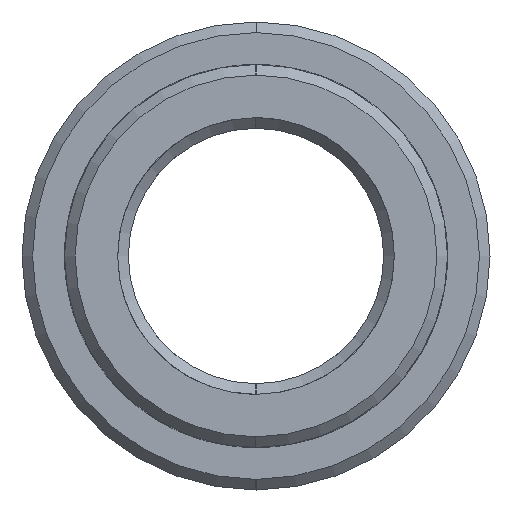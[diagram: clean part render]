
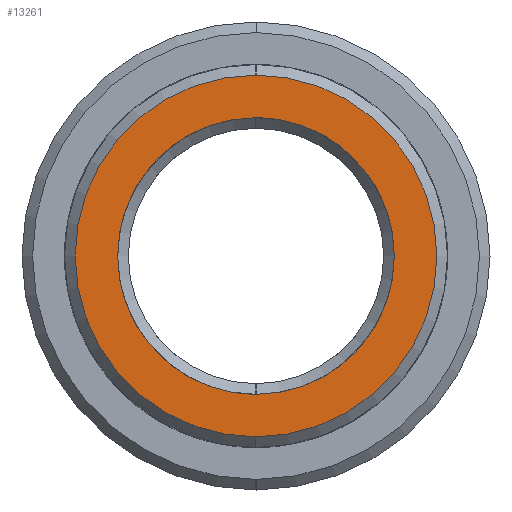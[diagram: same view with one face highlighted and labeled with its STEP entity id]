
A CAD part, left-side view. The second image highlights one B-rep face of the part: STEP entity #13261.
In plain terms, the highlighted planar face has unit normal (1, 0, 0).
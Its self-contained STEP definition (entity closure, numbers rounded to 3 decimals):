
#13178=CARTESIAN_POINT('Axis2P3D Location',(-16.,0.,0.)) ;
#13183=CARTESIAN_POINT('Axis2P3D Location',(-16.,0.,0.)) ;
#13187=CARTESIAN_POINT('Vertex',(-16.,0.,8.5)) ;
#13189=CARTESIAN_POINT('Vertex',(-16.,0.,-8.5)) ;
#13192=CARTESIAN_POINT('Axis2P3D Location',(-16.,0.,0.)) ;
#13202=CARTESIAN_POINT('Control Point',(-16.,0.,6.5)) ;
#13203=CARTESIAN_POINT('Control Point',(-16.,0.624,6.5)) ;
#13204=CARTESIAN_POINT('Control Point',(-16.,1.249,6.425)) ;
#13205=CARTESIAN_POINT('Control Point',(-16.,1.861,6.275)) ;
#13206=CARTESIAN_POINT('Control Point',(-16.,3.038,5.831)) ;
#13207=CARTESIAN_POINT('Control Point',(-16.,4.077,5.121)) ;
#13208=CARTESIAN_POINT('Control Point',(-16.,4.551,4.705)) ;
#13209=CARTESIAN_POINT('Control Point',(-16.,5.389,3.767)) ;
#13210=CARTESIAN_POINT('Control Point',(-16.,5.982,2.657)) ;
#13211=CARTESIAN_POINT('Control Point',(-16.,6.21,2.069)) ;
#13212=CARTESIAN_POINT('Control Point',(-16.,6.52,0.85)) ;
#13213=CARTESIAN_POINT('Control Point',(-16.,6.533,-0.408)) ;
#13214=CARTESIAN_POINT('Control Point',(-16.,6.463,-1.035)) ;
#13215=CARTESIAN_POINT('Control Point',(-16.,6.175,-2.259)) ;
#13216=CARTESIAN_POINT('Control Point',(-16.,5.605,-3.381)) ;
#13217=CARTESIAN_POINT('Control Point',(-16.,5.253,-3.904)) ;
#13218=CARTESIAN_POINT('Control Point',(-16.,4.432,-4.857)) ;
#13219=CARTESIAN_POINT('Control Point',(-16.,3.408,-5.588)) ;
#13220=CARTESIAN_POINT('Control Point',(-16.,2.855,-5.89)) ;
#13221=CARTESIAN_POINT('Control Point',(-16.,1.955,-6.248)) ;
#13222=CARTESIAN_POINT('Control Point',(-16.,1.009,-6.434)) ;
#13223=CARTESIAN_POINT('Control Point',(-16.,0.674,-6.478)) ;
#13224=CARTESIAN_POINT('Control Point',(-16.,0.337,-6.5)) ;
#13225=CARTESIAN_POINT('Control Point',(-16.,0.,-6.5)) ;
#13226=CARTESIAN_POINT('Vertex',(-16.,0.,6.5)) ;
#13228=CARTESIAN_POINT('Vertex',(-16.,0.,-6.5)) ;
#13232=CARTESIAN_POINT('Control Point',(-16.,0.,-6.5)) ;
#13233=CARTESIAN_POINT('Control Point',(-16.,-0.624,-6.5)) ;
#13234=CARTESIAN_POINT('Control Point',(-16.,-1.249,-6.425)) ;
#13235=CARTESIAN_POINT('Control Point',(-16.,-1.861,-6.275)) ;
#13236=CARTESIAN_POINT('Control Point',(-16.,-3.038,-5.831)) ;
#13237=CARTESIAN_POINT('Control Point',(-16.,-4.077,-5.121)) ;
#13238=CARTESIAN_POINT('Control Point',(-16.,-4.551,-4.705)) ;
#13239=CARTESIAN_POINT('Control Point',(-16.,-5.389,-3.767)) ;
#13240=CARTESIAN_POINT('Control Point',(-16.,-5.982,-2.657)) ;
#13241=CARTESIAN_POINT('Control Point',(-16.,-6.21,-2.069)) ;
#13242=CARTESIAN_POINT('Control Point',(-16.,-6.52,-0.85)) ;
#13243=CARTESIAN_POINT('Control Point',(-16.,-6.533,0.408)) ;
#13244=CARTESIAN_POINT('Control Point',(-16.,-6.463,1.035)) ;
#13245=CARTESIAN_POINT('Control Point',(-16.,-6.175,2.259)) ;
#13246=CARTESIAN_POINT('Control Point',(-16.,-5.605,3.381)) ;
#13247=CARTESIAN_POINT('Control Point',(-16.,-5.253,3.904)) ;
#13248=CARTESIAN_POINT('Control Point',(-16.,-4.432,4.857)) ;
#13249=CARTESIAN_POINT('Control Point',(-16.,-3.408,5.588)) ;
#13250=CARTESIAN_POINT('Control Point',(-16.,-2.855,5.89)) ;
#13251=CARTESIAN_POINT('Control Point',(-16.,-1.955,6.248)) ;
#13252=CARTESIAN_POINT('Control Point',(-16.,-1.009,6.434)) ;
#13253=CARTESIAN_POINT('Control Point',(-16.,-0.674,6.478)) ;
#13254=CARTESIAN_POINT('Control Point',(-16.,-0.337,6.5)) ;
#13255=CARTESIAN_POINT('Control Point',(-16.,0.,6.5)) ;
#13179=DIRECTION('Axis2P3D Direction',(1.,0.,0.)) ;
#13180=DIRECTION('Axis2P3D XDirection',(0.,1.,0.)) ;
#13184=DIRECTION('Axis2P3D Direction',(1.,0.,0.)) ;
#13193=DIRECTION('Axis2P3D Direction',(1.,0.,0.)) ;
#13181=AXIS2_PLACEMENT_3D('Plane Axis2P3D',#13178,#13179,#13180) ;
#13185=AXIS2_PLACEMENT_3D('Circle Axis2P3D',#13183,#13184,$) ;
#13194=AXIS2_PLACEMENT_3D('Circle Axis2P3D',#13192,#13193,$) ;
#13198=ORIENTED_EDGE('',*,*,#13191,.T.) ;
#13199=ORIENTED_EDGE('',*,*,#13196,.T.) ;
#13258=ORIENTED_EDGE('',*,*,#13230,.T.) ;
#13259=ORIENTED_EDGE('',*,*,#13256,.T.) ;
#13260=FACE_BOUND('',#13257,.T.) ;
#13261=ADVANCED_FACE('MANIFOLD_SOLID_BREP #8487',(#13200,#13260),#13182,.T.) ;
#13201=B_SPLINE_CURVE_WITH_KNOTS('',5,(#13202,#13203,#13204,#13205,#13206,#13207,#13208,#13209,#13210,#13211,#13212,#13213,#13214,#13215,#13216,#13217,#13218,#13219,#13220,#13221,#13222,#13223,#13224,#13225),.UNSPECIFIED.,.F.,.U.,(6,3,3,3,3,3,3,6),(0.,4.416,8.832,13.247,17.663,22.079,26.495,28.878),.UNSPECIFIED.) ;
#13231=B_SPLINE_CURVE_WITH_KNOTS('',5,(#13232,#13233,#13234,#13235,#13236,#13237,#13238,#13239,#13240,#13241,#13242,#13243,#13244,#13245,#13246,#13247,#13248,#13249,#13250,#13251,#13252,#13253,#13254,#13255),.UNSPECIFIED.,.F.,.U.,(6,3,3,3,3,3,3,6),(0.,4.416,8.832,13.247,17.663,22.079,26.495,28.878),.UNSPECIFIED.) ;
#13186=CIRCLE('generated circle',#13185,8.5) ;
#13195=CIRCLE('generated circle',#13194,8.5) ;
#13191=EDGE_CURVE('',#13188,#13190,#13186,.T.) ;
#13196=EDGE_CURVE('',#13190,#13188,#13195,.T.) ;
#13230=EDGE_CURVE('',#13227,#13229,#13201,.T.) ;
#13256=EDGE_CURVE('',#13229,#13227,#13231,.T.) ;
#13197=EDGE_LOOP('',(#13198,#13199)) ;
#13257=EDGE_LOOP('',(#13258,#13259)) ;
#13200=FACE_OUTER_BOUND('',#13197,.T.) ;
#13182=PLANE('Plane',#13181) ;
#13188=VERTEX_POINT('',#13187) ;
#13190=VERTEX_POINT('',#13189) ;
#13227=VERTEX_POINT('',#13226) ;
#13229=VERTEX_POINT('',#13228) ;
